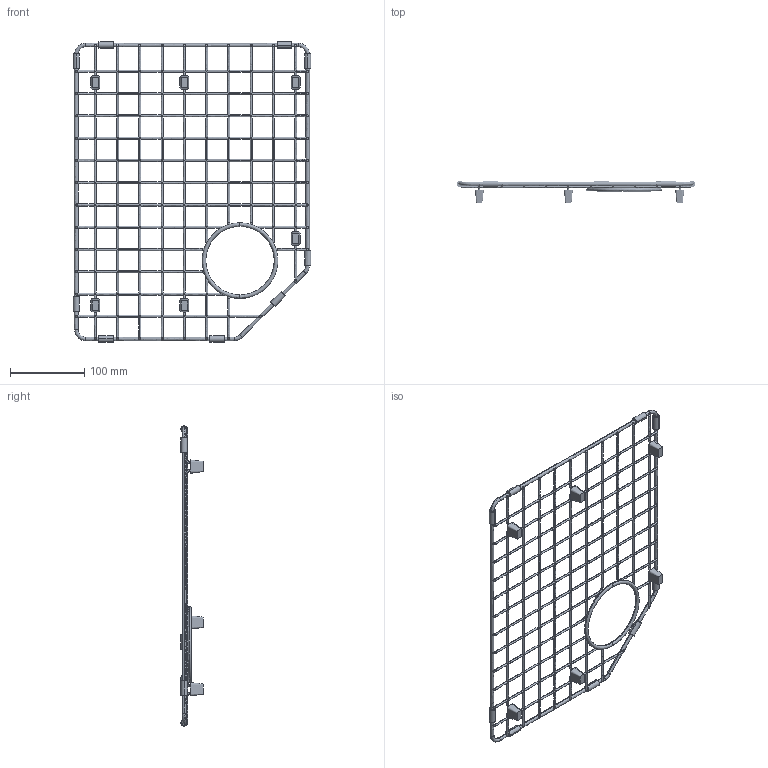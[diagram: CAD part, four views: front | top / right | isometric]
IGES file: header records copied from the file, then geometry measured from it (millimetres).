
Start section: SolidWorks IGES file using NURBS representation for surfaces
Global section: file name: \\IBMGRAU\Projectos\02-ACESSÓRIOS\Grelhas de lava-louças\4A41311 - grelha esq. p l. louça farmhouse 2 cubas\biblioteca 3D\4A41311_igs.IGS; native system: SolidWorks 2018; preprocessor: SolidWorks 2018; author: Julio; date: 180627.174548; units: millimetre
Bounding box: 320.5 x 29.95 x 404.5 mm (x, y, z)
Surface area: 92238.6 mm2 (no closed solid volume)
Topology: 0 solids, 0 shells, 708 faces, 22101 edges, 22101 vertices
Faces by surface type: bspline 708
